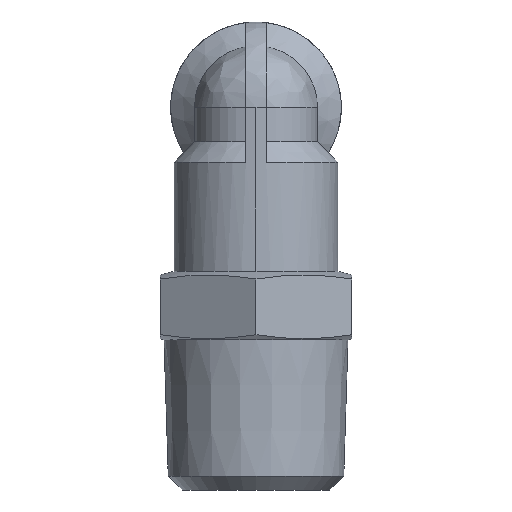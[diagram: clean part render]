
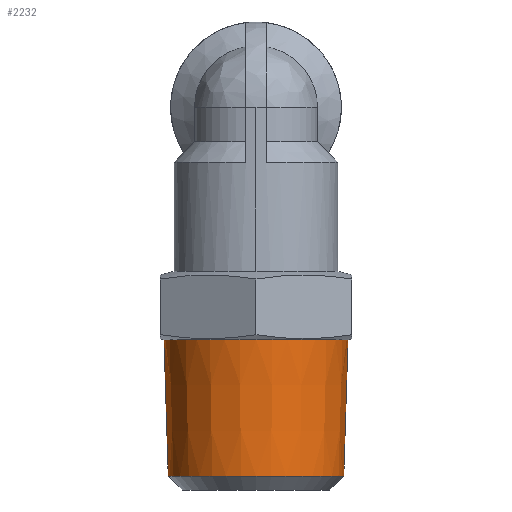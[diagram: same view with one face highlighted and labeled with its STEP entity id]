
A CAD part, left-side view. The second image highlights one B-rep face of the part: STEP entity #2232.
In plain terms, the highlighted conical face has half-angle 1.79 degrees and reference radius 6.734 mm.
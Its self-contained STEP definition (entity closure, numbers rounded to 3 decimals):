
#23 = VERTEX_POINT ( 'NONE', #2488 ) ;
#178 = EDGE_CURVE ( 'NONE', #1157, #23, #2280, .T. ) ;
#292 = DIRECTION ( 'NONE',  ( 0., -0.031, 1. ) ) ;
#383 = EDGE_CURVE ( 'NONE', #402, #23, #2152, .T. ) ;
#388 = EDGE_CURVE ( 'NONE', #1157, #524, #2120, .T. ) ;
#402 = VERTEX_POINT ( 'NONE', #786 ) ;
#413 = FACE_OUTER_BOUND ( 'NONE', #580, .T. ) ;
#524 = VERTEX_POINT ( 'NONE', #908 ) ;
#580 = EDGE_LOOP ( 'NONE', ( #1516, #909, #850, #1588 ) ) ;
#742 = CARTESIAN_POINT ( 'NONE',  ( 0., 0., 11. ) ) ;
#756 = DIRECTION ( 'NONE',  ( 0., 0., -1. ) ) ;
#760 = DIRECTION ( 'NONE',  ( 1., 0., 0. ) ) ;
#768 = CARTESIAN_POINT ( 'NONE',  ( 0., 0., 1.023 ) ) ;
#774 = DIRECTION ( 'NONE',  ( 0., 0., 1. ) ) ;
#779 = DIRECTION ( 'NONE',  ( 1., 0., 0. ) ) ;
#786 = CARTESIAN_POINT ( 'NONE',  ( 0., -6.734, 11. ) ) ;
#850 = ORIENTED_EDGE ( 'NONE', *, *, #2312, .T. ) ;
#908 = CARTESIAN_POINT ( 'NONE',  ( 0., -6.423, 1.023 ) ) ;
#909 = ORIENTED_EDGE ( 'NONE', *, *, #388, .T. ) ;
#916 = LINE ( 'NONE', #1058, #950 ) ;
#950 = VECTOR ( 'NONE', #292, 1000. ) ;
#968 = CONICAL_SURFACE ( 'NONE', #1033, 6.734, 0.031 ) ;
#1033 = AXIS2_PLACEMENT_3D ( 'NONE', #2539, #1651, #2522 ) ;
#1058 = CARTESIAN_POINT ( 'NONE',  ( 0., -6.734, 11. ) ) ;
#1157 = VERTEX_POINT ( 'NONE', #2487 ) ;
#1516 = ORIENTED_EDGE ( 'NONE', *, *, #178, .F. ) ;
#1588 = ORIENTED_EDGE ( 'NONE', *, *, #383, .T. ) ;
#1651 = DIRECTION ( 'NONE',  ( 0., 0., 1. ) ) ;
#2120 = CIRCLE ( 'NONE', #2404, 6.423 ) ;
#2149 = CARTESIAN_POINT ( 'NONE',  ( 0., 6.734, 11. ) ) ;
#2152 = CIRCLE ( 'NONE', #2397, 6.734 ) ;
#2232 = ADVANCED_FACE ( '66', ( #413 ), #968, .T. ) ;
#2279 = VECTOR ( 'NONE', #2339, 1000. ) ;
#2280 = LINE ( 'NONE', #2149, #2279 ) ;
#2312 = EDGE_CURVE ( 'NONE', #524, #402, #916, .T. ) ;
#2339 = DIRECTION ( 'NONE',  ( 0., 0.031, 1. ) ) ;
#2397 = AXIS2_PLACEMENT_3D ( 'NONE', #742, #756, #760 ) ;
#2404 = AXIS2_PLACEMENT_3D ( 'NONE', #768, #774, #779 ) ;
#2487 = CARTESIAN_POINT ( 'NONE',  ( 0., 6.423, 1.023 ) ) ;
#2488 = CARTESIAN_POINT ( 'NONE',  ( 0., 6.734, 11. ) ) ;
#2522 = DIRECTION ( 'NONE',  ( 0., -1., 0. ) ) ;
#2539 = CARTESIAN_POINT ( 'NONE',  ( 0., 0., 11. ) ) ;
